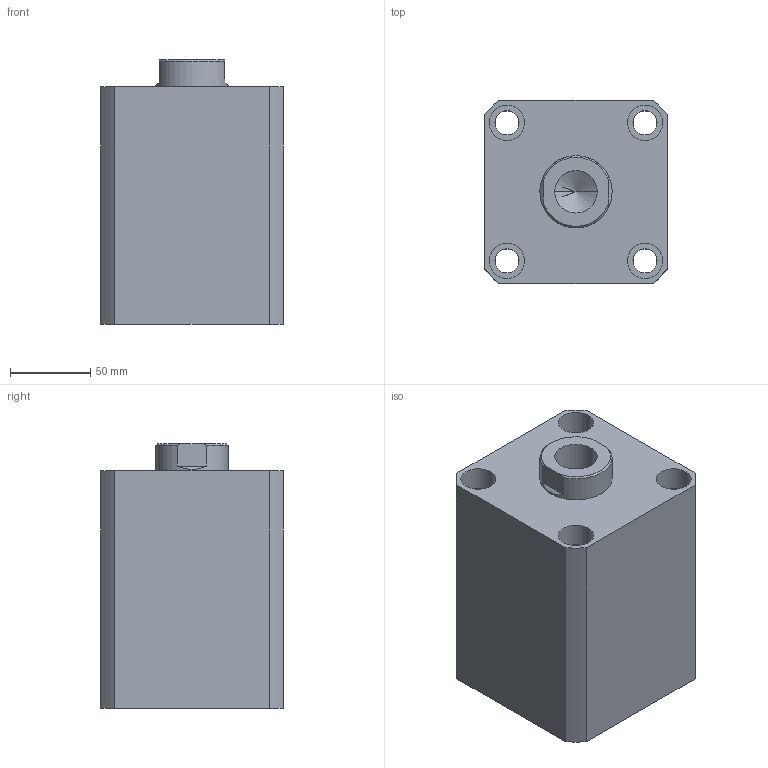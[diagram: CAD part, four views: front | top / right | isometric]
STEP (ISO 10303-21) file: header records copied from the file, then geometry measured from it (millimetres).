
FILE_DESCRIPTION (( 'STEP AP203' ), '1' );
FILE_NAME ('HTB-SDMB80-70N.STEP', '2019-10-09T06:10:03', ( '微软用户' ), ( '微软中国' ), 'SwSTEP 2.0', 'SolidWorks 2012', '' );
FILE_SCHEMA (( 'CONFIG_CONTROL_DESIGN' ));
Length unit declared in the file: millimetre
Products named in the file (3): HTB-SDMB80-70掛极; HTB-SDMB80-70N活塞杆; HTB-SDMB80-70N
Assembly tree (2 placements, depth 2):
  HTB-SDMB80-70N
    HTB-SDMB80-70掛极
    HTB-SDMB80-70N活塞杆
Bounding box: 114 x 114 x 165 mm (x, y, z)
Volume: 1533667.6 mm3; surface area: 194226.8 mm2
Topology: 2 solids, 2 shells, 137 faces, 331 edges, 217 vertices
Faces by surface type: plane 65, cylinder 46, bspline 16, torus 6, cone 4
Entity records: 5070 total; most frequent: CARTESIAN_POINT 1576, ORIENTED_EDGE 658, DIRECTION 647, EDGE_CURVE 329, AXIS2_PLACEMENT_3D 232, VERTEX_POINT 217, LINE 183, VECTOR 183
